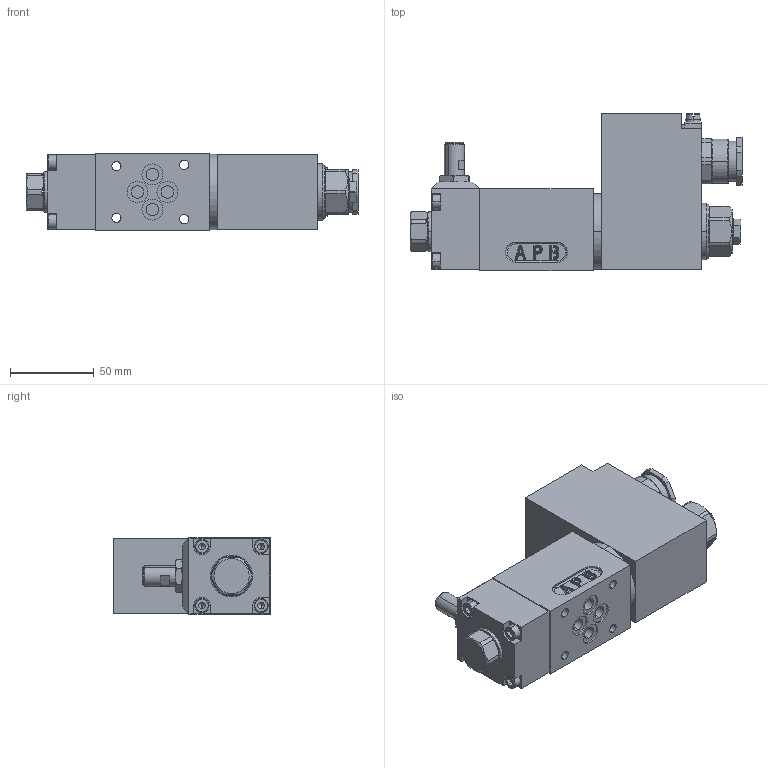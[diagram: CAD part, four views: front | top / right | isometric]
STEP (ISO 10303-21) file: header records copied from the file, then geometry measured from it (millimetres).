
FILE_DESCRIPTION (( 'STEP AP214' ), '1' );
FILE_NAME ('WDYFA06-AB2-G24_L15-Z104.STEP', '2019-11-15T07:24:45', ( '' ), ( '' ), 'SwSTEP 2.0', 'SolidWorks 2018', '' );
FILE_SCHEMA (( 'AUTOMOTIVE_DESIGN' ));
Length unit declared in the file: millimetre
Products named in the file (1): WDYFA06-AB2-G24_L15-Z104
Bounding box: 198.55 x 94.3 x 46 mm (x, y, z)
Surface area: 67425 mm2 (no closed solid volume)
Topology: 0 solids, 26 shells, 661 faces, 1963 edges, 1254 vertices
Faces by surface type: plane 252, cylinder 228, cone 62, torus 52, bspline 52, sphere 15
Entity records: 32905 total; most frequent: CARTESIAN_POINT 8330, DIRECTION 3769, ORIENTED_EDGE 3252, EDGE_CURVE 1942, AXIS2_PLACEMENT_3D 1447, VERTEX_POINT 1254, LINE 875, VECTOR 875
